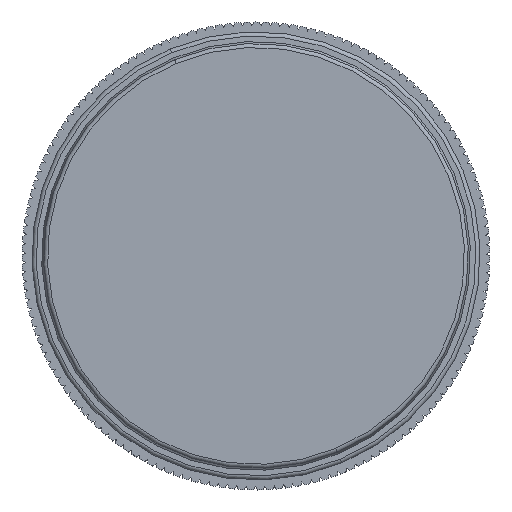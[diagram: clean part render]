
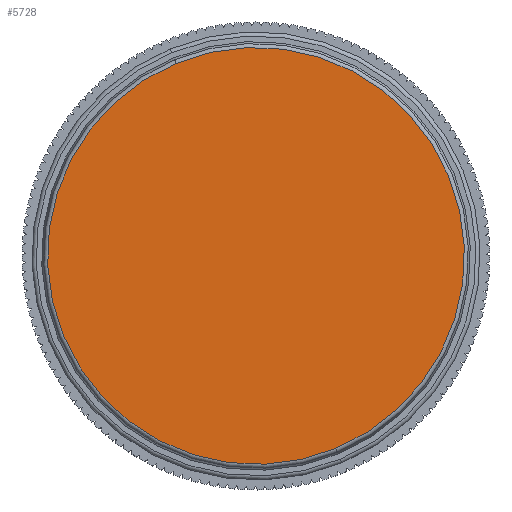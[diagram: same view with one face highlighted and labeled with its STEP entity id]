
A CAD part, top view. The second image highlights one B-rep face of the part: STEP entity #5728.
In plain terms, the highlighted planar face has unit normal (0, 0, 1).
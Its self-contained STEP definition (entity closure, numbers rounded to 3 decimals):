
#1231 = DIRECTION ( 'NONE',  ( -0.383, 0.924, 0. ) ) ;
#2734 = CARTESIAN_POINT ( 'NONE',  ( -0.183, -24.899, 28. ) ) ;
#3345 = VERTEX_POINT ( 'NONE', #4118 ) ;
#3925 = AXIS2_PLACEMENT_3D ( 'NONE', #5322, #11446, #8700 ) ;
#4118 = CARTESIAN_POINT ( 'NONE',  ( -0.183, -24.899, 28. ) ) ;
#4557 = CARTESIAN_POINT ( 'NONE',  ( -9.945, -1.357, 28. ) ) ;
#5322 = CARTESIAN_POINT ( 'NONE',  ( -9.945, -1.357, 28. ) ) ;
#5728 = ADVANCED_FACE ( 'NONE', ( #13578 ), #16493, .T. ) ;
#7290 = AXIS2_PLACEMENT_3D ( 'NONE', #4557, #12477, #13690 ) ;
#7529 = EDGE_CURVE ( 'NONE', #3345, #12016, #16102, .T. ) ;
#8700 = DIRECTION ( 'NONE',  ( 0.383, -0.924, 0. ) ) ;
#9542 = CIRCLE ( 'NONE', #7290, 25.486 ) ;
#11446 = DIRECTION ( 'NONE',  ( 0., 0., -1. ) ) ;
#12016 = VERTEX_POINT ( 'NONE', #15397 ) ;
#12477 = DIRECTION ( 'NONE',  ( 0., 0., -1. ) ) ;
#13285 = ORIENTED_EDGE ( 'NONE', *, *, #17363, .F. ) ;
#13578 = FACE_OUTER_BOUND ( 'NONE', #13585, .T. ) ;
#13585 = EDGE_LOOP ( 'NONE', ( #19282, #13285 ) ) ;
#13690 = DIRECTION ( 'NONE',  ( 0.383, -0.924, 0. ) ) ;
#14977 = DIRECTION ( 'NONE',  ( 0., 0., 1. ) ) ;
#15397 = CARTESIAN_POINT ( 'NONE',  ( -19.708, 22.185, 28. ) ) ;
#16102 = CIRCLE ( 'NONE', #3925, 25.486 ) ;
#16493 = PLANE ( 'NONE',  #19314 ) ;
#17363 = EDGE_CURVE ( 'NONE', #12016, #3345, #9542, .T. ) ;
#19282 = ORIENTED_EDGE ( 'NONE', *, *, #7529, .F. ) ;
#19314 = AXIS2_PLACEMENT_3D ( 'NONE', #2734, #14977, #1231 ) ;
